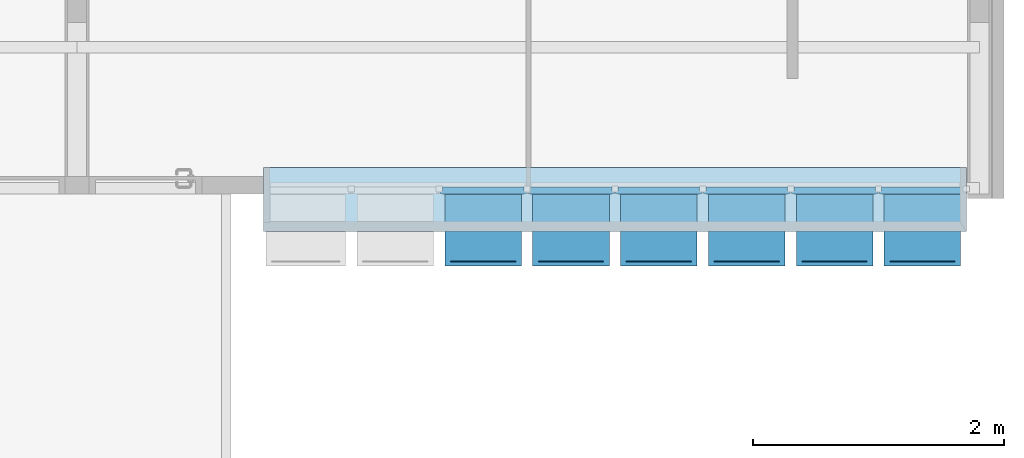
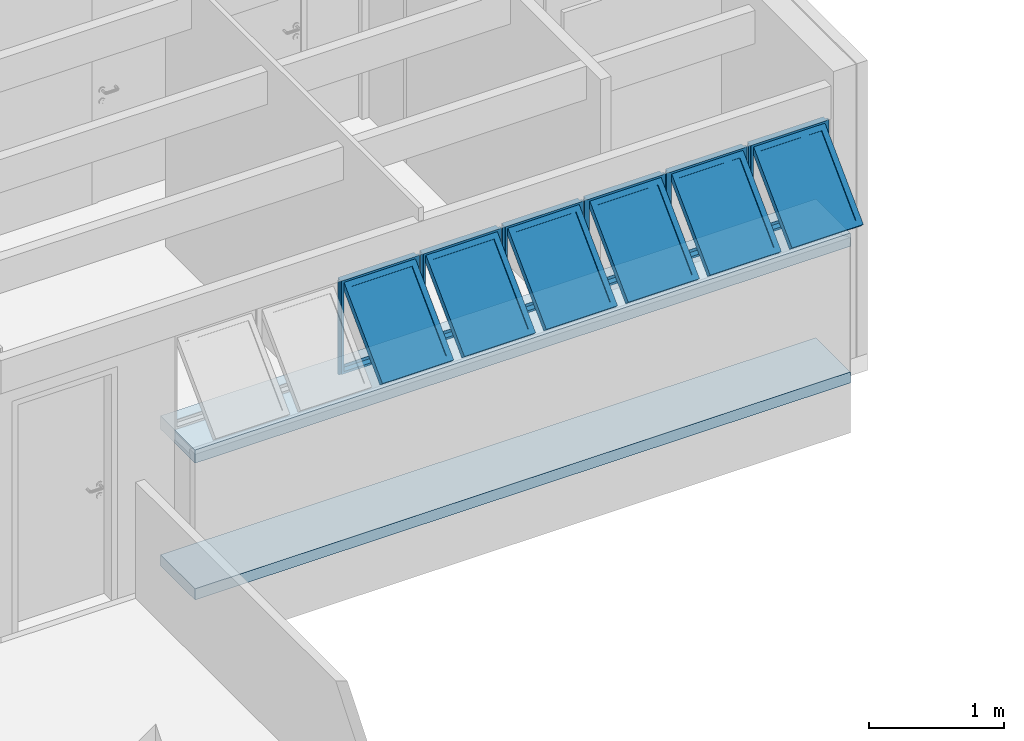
# One storey, part 13 of 40: 6 plates, 2 slabs, 1 element without a shape of its own.
"""IFC4 building model written with IfcOpenShell, lengths in millimetres."""

from ifc_helpers import new_model, entity, si_unit, converted_unit, derived_unit, direction, frame, origin_with_axes, place, context, subcontext, project, spatial, line, indexed_curve, outline, extrude, polygons, source, transform, mapped, material, layer, layer_set, layer_usage, constituent, constituent_set, type_object, element, aggregate, save


model = new_model("IFC4")

# Units and contexts
model_context = context("Model", 3, precision=0.01, world=origin_with_axes(), true_north=direction((0.0, 1.0)))
body_context = subcontext(model_context, "Body", "Model", "MODEL_VIEW")
ifc_project = project(units=[si_unit("LENGTHUNIT", "METRE", prefix="MILLI"), si_unit("AREAUNIT", "SQUARE_METRE"), si_unit("VOLUMEUNIT", "CUBIC_METRE"), converted_unit("PLANEANGLEUNIT", "DEGREE", entity("IfcPlaneAngleMeasure", 0.0174532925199), si_unit("PLANEANGLEUNIT", "RADIAN"), dimensions=[0, 0, 0, 0, 0, 0, 0]), converted_unit("TIMEUNIT", "Year", entity("IfcTimeMeasure", 31556926.0), si_unit("TIMEUNIT", "SECOND"), dimensions=[0, 0, 1, 0, 0, 0, 0]), si_unit("MASSUNIT", "GRAM", prefix="KILO"), si_unit("THERMODYNAMICTEMPERATUREUNIT", "DEGREE_CELSIUS"), si_unit("LUMINOUSINTENSITYUNIT", "LUMEN"), si_unit("ENERGYUNIT", "JOULE", prefix="MEGA"), derived_unit("THERMALCONDUCTANCEUNIT", [(si_unit("POWERUNIT", "WATT"), 1), (si_unit("LENGTHUNIT", "METRE"), -1), (si_unit("THERMODYNAMICTEMPERATUREUNIT", "KELVIN"), -1)]), derived_unit("SPECIFICHEATCAPACITYUNIT", [(si_unit("ENERGYUNIT", "JOULE"), 1), (si_unit("MASSUNIT", "GRAM", prefix="KILO"), -1), (si_unit("THERMODYNAMICTEMPERATUREUNIT", "KELVIN"), -1)]), derived_unit("MASSDENSITYUNIT", [(si_unit("MASSUNIT", "GRAM", prefix="KILO"), 1), (si_unit("VOLUMEUNIT", "CUBIC_METRE"), -1)])], contexts=[model_context])

# Site, building, storey
site_placement = place(None, origin_with_axes())
site = spatial("IfcSite", under=ifc_project, at=site_placement, Name="Local", CompositionType="ELEMENT")
building_placement = place(site_placement, origin_with_axes())
building = spatial("IfcBuilding", under=site, at=building_placement, Name="Construção", CompositionType="ELEMENT")
storey_placement = place(building_placement, origin_with_axes())
storey = spatial("IfcBuildingStorey", under=building, at=storey_placement, Name="Primeiro Pavimento", CompositionType="ELEMENT", Elevation=0.0)

# Slabs
ifc_material_1 = material(Name="Concreto Armado Moldado in Loco - Estrutural")
ifc_layer_1 = layer(ifc_material_1, 120.0, ventilated="UNKNOWN", Name="Concreto Armado Moldado in Loco - Estrutural")
ifc_layer_set_1 = layer_set([ifc_layer_1], Name="Concreto Armado Moldado in Loco - Estrutural 120")
ifc_layer_usage_1 = layer_usage(ifc_layer_set_1, "AXIS3", "NEGATIVE", 120.0)
slab_type_1 = type_object("IfcSlabType", Name="Concreto Armado Moldado in Loco - Estrutural 120", PredefinedType="FLOOR")
slab_1_placement = place(storey_placement, frame((14470.0, 17595.0000013, 1355.0), z_axis=(0.0, 0.0, 1.0), x_axis=(1.0, 0.0, 0.0)))
element("IfcSlab", 1, at=slab_1_placement, inside=storey, type_object=slab_type_1, material=ifc_layer_usage_1, Name="APTO4-LAJE-003", PredefinedType="FLOOR", context=body_context, shape_type="SweptSolid", body=[
    extrude(outline(indexed_curve([(0.0, 0.0), (0.0, 510.0), (-5600.0, 510.0), (-5600.0, 0.0)], segments=[line(1, 2, 3, 4, 1)])), frame((0.0, 0.0, -120.0), z_axis=(0.0, 0.0, 1.0), x_axis=(1.0, 0.0, 0.0)), (0.0, 0.0, 1.0), 120.0),
])
ifc_layer_2 = layer(ifc_material_1, 100.0, ventilated="UNKNOWN", Name="Concreto Armado Moldado in Loco - Estrutural")
ifc_layer_set_2 = layer_set([ifc_layer_2], Name="Concreto Armado Moldado in Loco - Estrutural 100")
ifc_layer_usage_2 = layer_usage(ifc_layer_set_2, "AXIS3", "NEGATIVE", 100.0)
slab_type_2 = type_object("IfcSlabType", Name="Concreto Armado Moldado in Loco - Estrutural 100", PredefinedType="FLOOR")
slab_2_placement = place(storey_placement, frame((14470.0, 17595.0000013, 100.0), z_axis=(0.0, 0.0, 1.0), x_axis=(1.0, 0.0, 0.0)))
element("IfcSlab", 2, at=slab_2_placement, inside=storey, type_object=slab_type_2, material=ifc_layer_usage_2, Name="APTO4-LAJE-004", PredefinedType="FLOOR", context=body_context, shape_type="SweptSolid", body=[
    extrude(outline(indexed_curve([(0.0, 0.0), (0.0, 510.0), (-5600.0, 510.0), (-5600.0, 0.0)], segments=[line(1, 2, 3, 4, 1)])), frame((0.0, 0.0, -100.0), z_axis=(0.0, 0.0, 1.0), x_axis=(1.0, 0.0, 0.0)), (0.0, 0.0, 1.0), 100.0),
])

# Window, plates
window_type = type_object("IfcWindowType", Name="Tipo de Parede Cortina", PartitioningType="NOTDEFINED", PredefinedType="NOTDEFINED")
window_placement = place(storey_placement, frame((12020.0, 17910.0, 1355.00007107), z_axis=(0.0, 0.0, 1.0), x_axis=(1.0, 0.0, 0.0)))
window = element("IfcWindow", 3, at=window_placement, inside=storey, type_object=window_type, Name="APTO4-JANELA-000", PredefinedType="NOTDEFINED")
ifc_material_2 = material(Name="Alumínio")
ifc_constituent_1 = constituent(ifc_material_2, Name="Alumínio")
ifc_material_3 = material(Name="Vidro")
ifc_constituent_2 = constituent(ifc_material_3, Name="Vidro")
ifc_constituent_set_1 = constituent_set(constituents=[ifc_constituent_1, ifc_constituent_2])
plate_type = type_object("IfcPlateType", Name="Painel Principal 690 x 845 x 20", PredefinedType="CURTAIN_PANEL")
shared_shape_1 = source(origin_with_axes(), body_context, "Body", "Tessellation", [
    polygons([(-25.0000036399, 0.0, -40.0), (-25.0000036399, 0.0, -35.0), (-674.999997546, 0.0, -35.0), (-674.999997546, 0.0, -40.0), (-70.0000036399, 45.0, -40.0), (-70.0000036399, 45.0, -35.0), (-629.999997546, 45.0, -35.0), (-629.999997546, 45.0, -40.0)], [[[1, 2, 3, 4]], [[5, 6, 2, 1]], [[2, 6, 7, 3]], [[4, 3, 7, 8]], [[1, 4, 8, 5]], [[8, 7, 6, 5]]], closed=True),
    polygons([(-674.999997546, 0.0, -40.0), (-674.999997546, 0.0, -35.0), (-674.999997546, 844.999891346, -35.0), (-674.999997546, 844.999891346, -40.0), (-629.999997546, 45.0, -40.0), (-629.999997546, 45.0, -35.0), (-629.999997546, 799.999891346, -35.0), (-629.999997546, 799.999891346, -40.0)], [[[1, 2, 3, 4]], [[5, 6, 2, 1]], [[2, 6, 7, 3]], [[4, 3, 7, 8]], [[1, 4, 8, 5]], [[8, 7, 6, 5]]], closed=True),
    polygons([(-25.0000036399, 844.999891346, -40.0), (-25.0000036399, 844.999891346, -35.0), (-70.0000036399, 799.999891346, -35.0), (-70.0000036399, 799.999891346, -40.0), (-674.999997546, 844.999891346, -40.0), (-674.999997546, 844.999891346, -35.0), (-629.999997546, 799.999891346, -35.0), (-629.999997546, 799.999891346, -40.0)], [[[1, 2, 3, 4]], [[5, 6, 2, 1]], [[2, 6, 7, 3]], [[4, 3, 7, 8]], [[1, 4, 8, 5]], [[8, 7, 6, 5]]], closed=True),
    polygons([(-25.0000036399, 0.0, -40.0), (-25.0000036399, 0.0, -35.0), (-70.0000036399, 45.0, -35.0), (-70.0000036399, 45.0, -40.0), (-25.0000036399, 844.999891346, -40.0), (-25.0000036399, 844.999891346, -35.0), (-70.0000036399, 799.999891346, -35.0), (-70.0000036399, 799.999891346, -40.0)], [[[1, 2, 3, 4]], [[5, 6, 2, 1]], [[2, 6, 7, 3]], [[4, 3, 7, 8]], [[1, 4, 8, 5]], [[8, 7, 6, 5]]], closed=True),
    polygons([(-25.0000036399, 0.0, -35.0), (-25.0000036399, 0.0, 15.0), (-674.999997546, 0.0, 15.0), (-674.999997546, 0.0, -35.0), (-45.0000036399, 20.0, -35.0), (-45.0000036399, 20.0, 15.0), (-654.999997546, 20.0, 15.0), (-654.999997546, 20.0, -35.0)], [[[1, 2, 3, 4]], [[5, 6, 2, 1]], [[2, 6, 7, 3]], [[4, 3, 7, 8]], [[1, 4, 8, 5]], [[8, 7, 6, 5]]], closed=True),
    polygons([(-674.999997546, 0.0, -35.0), (-674.999997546, 0.0, 15.0), (-674.999997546, 844.999891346, 15.0), (-674.999997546, 844.999891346, -35.0), (-654.999997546, 20.0, -35.0), (-654.999997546, 20.0, 15.0), (-654.999997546, 824.999891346, 15.0), (-654.999997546, 824.999891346, -35.0)], [[[1, 2, 3, 4]], [[5, 6, 2, 1]], [[2, 6, 7, 3]], [[4, 3, 7, 8]], [[1, 4, 8, 5]], [[8, 7, 6, 5]]], closed=True),
    polygons([(-25.0000036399, 844.999891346, -35.0), (-25.0000036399, 844.999891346, 15.0), (-45.0000036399, 824.999891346, 15.0), (-45.0000036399, 824.999891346, -35.0), (-674.999997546, 844.999891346, -35.0), (-674.999997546, 844.999891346, 15.0), (-654.999997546, 824.999891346, 15.0), (-654.999997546, 824.999891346, -35.0)], [[[1, 2, 3, 4]], [[5, 6, 2, 1]], [[2, 6, 7, 3]], [[4, 3, 7, 8]], [[1, 4, 8, 5]], [[8, 7, 6, 5]]], closed=True),
    polygons([(-25.0000036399, 0.0, -35.0), (-25.0000036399, 0.0, 15.0), (-45.0000036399, 20.0, 15.0), (-45.0000036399, 20.0, -35.0), (-25.0000036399, 844.999891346, -35.0), (-25.0000036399, 844.999891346, 15.0), (-45.0000036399, 824.999891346, 15.0), (-45.0000036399, 824.999891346, -35.0)], [[[1, 2, 3, 4]], [[5, 6, 2, 1]], [[2, 6, 7, 3]], [[4, 3, 7, 8]], [[1, 4, 8, 5]], [[8, 7, 6, 5]]], closed=True),
    polygons([(-694.999995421, 0.0, -10.0), (-694.999995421, 0.0, 10.0), (-694.999995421, 844.999891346, 10.0), (-694.999995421, 844.999891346, -10.0), (-674.999997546, 0.0, -10.0), (-674.999997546, 0.0, 10.0), (-674.999997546, 844.999891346, 10.0), (-674.999997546, 844.999891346, -10.0)], [[[1, 2, 3, 4]], [[5, 6, 2, 1]], [[2, 6, 7, 3]], [[4, 3, 7, 8]], [[1, 4, 8, 5]], [[8, 7, 6, 5]]], closed=True),
    polygons([(-5.00000576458, 844.999891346, -10.0), (-5.00000576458, 844.999891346, 10.0), (-5.00000576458, 0.0, 10.0), (-5.00000576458, 0.0, -10.0), (-25.0000036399, 844.999891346, -10.0), (-25.0000036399, 844.999891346, 10.0), (-25.0000036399, 0.0, 10.0), (-25.0000036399, 0.0, -10.0)], [[[1, 2, 3, 4]], [[5, 6, 2, 1]], [[2, 6, 7, 3]], [[4, 3, 7, 8]], [[1, 4, 8, 5]], [[8, 7, 6, 5]]], closed=True),
    polygons([(-90.0000036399, 252.243475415, 517.045737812), (-90.0000036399, 291.13434838, 555.936610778), (-90.0000036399, 796.715620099, 50.3553390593), (-90.0000036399, 757.824747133, 11.4644660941), (-45.0000036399, 220.423670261, 548.865542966), (-45.0000036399, 259.314543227, 587.756415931), (-45.0000036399, 828.535425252, 18.5355339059), (-45.0000036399, 789.644552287, -20.3553390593)], [[[1, 2, 3, 4]], [[5, 6, 2, 1]], [[2, 6, 7, 3]], [[4, 3, 7, 8]], [[1, 4, 8, 5]], [[8, 7, 6, 5]]], closed=True),
    polygons([(-654.999997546, 220.423670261, 548.865542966), (-654.999997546, 259.314543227, 587.756415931), (-654.999997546, 828.535425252, 18.5355339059), (-654.999997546, 789.644552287, -20.3553390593), (-609.999997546, 252.243475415, 517.045737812), (-609.999997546, 291.13434838, 555.936610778), (-609.999997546, 796.715620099, 50.3553390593), (-609.999997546, 757.824747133, 11.4644660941)], [[[1, 2, 3, 4]], [[5, 6, 2, 1]], [[2, 6, 7, 3]], [[4, 3, 7, 8]], [[1, 4, 8, 5]], [[8, 7, 6, 5]]], closed=True),
    polygons([(-654.999997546, 220.423670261, 548.865542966), (-654.999997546, 259.314543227, 587.756415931), (-609.999997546, 291.13434838, 555.936610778), (-609.999997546, 252.243475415, 517.045737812), (-45.0000036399, 220.423670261, 548.865542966), (-45.0000036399, 259.314543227, 587.756415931), (-90.0000036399, 291.13434838, 555.936610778), (-90.0000036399, 252.243475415, 517.045737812)], [[[1, 2, 3, 4]], [[5, 6, 2, 1]], [[2, 6, 7, 3]], [[4, 3, 7, 8]], [[1, 4, 8, 5]], [[8, 7, 6, 5]]], closed=True),
    polygons([(-45.0000036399, 789.644552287, -20.3553390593), (-45.0000036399, 828.535425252, 18.5355339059), (-90.0000036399, 796.715620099, 50.3553390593), (-90.0000036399, 757.824747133, 11.4644660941), (-654.999997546, 789.644552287, -20.3553390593), (-654.999997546, 828.535425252, 18.5355339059), (-609.999997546, 796.715620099, 50.3553390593), (-609.999997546, 757.824747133, 11.4644660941)], [[[1, 2, 3, 4]], [[5, 6, 2, 1]], [[2, 6, 7, 3]], [[4, 3, 7, 8]], [[1, 4, 8, 5]], [[8, 7, 6, 5]]], closed=True),
    polygons([(-90.0000036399, 272.749572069, 537.551834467), (-90.0000036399, 284.063280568, 548.865542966), (-609.999997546, 284.063280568, 548.865542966), (-609.999997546, 272.749572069, 537.551834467), (-90.0000036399, 778.330843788, 31.9705627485), (-90.0000036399, 789.644552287, 43.2842712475), (-609.999997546, 789.644552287, 43.2842712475), (-609.999997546, 778.330843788, 31.9705627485)], [[[1, 2, 3, 4]], [[5, 6, 2, 1]], [[2, 6, 7, 3]], [[4, 3, 7, 8]], [[1, 4, 8, 5]], [[8, 7, 6, 5]]], closed=True),
])
plate_1_placement = place(window_placement, frame((0.0, 0.0, 422.499964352), z_axis=(0.0, 0.0, 1.0), x_axis=(1.0, 0.0, 0.0)))
plate_1 = element("IfcPlate", 4, at=plate_1_placement, type_object=plate_type, material=ifc_constituent_set_1, Name="APTO4-Painel-Prin-013", PredefinedType="CURTAIN_PANEL", context=body_context, shape_type="MappedRepresentation", body=[
    mapped(shared_shape_1, transform((350.0, 0.0, -422.499964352), x_axis=(1.0, 0.0, 0.0), y_axis=(0.0, 0.0, 1.0), z_axis=(0.0, -1.0, 0.0))),
])
ifc_constituent_3 = constituent(ifc_material_2, Name="Alumínio")
ifc_constituent_4 = constituent(ifc_material_3, Name="Vidro")
ifc_constituent_set_2 = constituent_set(constituents=[ifc_constituent_3, ifc_constituent_4])
shared_shape_2 = source(origin_with_axes(), body_context, "Body", "Tessellation", [
    polygons([(-25.0000036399, 0.0, -40.0), (-25.0000036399, 0.0, -35.0), (-674.999997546, 0.0, -35.0), (-674.999997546, 0.0, -40.0), (-70.0000036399, 45.0, -40.0), (-70.0000036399, 45.0, -35.0), (-629.999997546, 45.0, -35.0), (-629.999997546, 45.0, -40.0)], [[[1, 2, 3, 4]], [[5, 6, 2, 1]], [[2, 6, 7, 3]], [[4, 3, 7, 8]], [[1, 4, 8, 5]], [[8, 7, 6, 5]]], closed=True),
    polygons([(-674.999997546, 0.0, -40.0), (-674.999997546, 0.0, -35.0), (-674.999997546, 844.999891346, -35.0), (-674.999997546, 844.999891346, -40.0), (-629.999997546, 45.0, -40.0), (-629.999997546, 45.0, -35.0), (-629.999997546, 799.999891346, -35.0), (-629.999997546, 799.999891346, -40.0)], [[[1, 2, 3, 4]], [[5, 6, 2, 1]], [[2, 6, 7, 3]], [[4, 3, 7, 8]], [[1, 4, 8, 5]], [[8, 7, 6, 5]]], closed=True),
    polygons([(-25.0000036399, 844.999891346, -40.0), (-25.0000036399, 844.999891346, -35.0), (-70.0000036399, 799.999891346, -35.0), (-70.0000036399, 799.999891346, -40.0), (-674.999997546, 844.999891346, -40.0), (-674.999997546, 844.999891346, -35.0), (-629.999997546, 799.999891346, -35.0), (-629.999997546, 799.999891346, -40.0)], [[[1, 2, 3, 4]], [[5, 6, 2, 1]], [[2, 6, 7, 3]], [[4, 3, 7, 8]], [[1, 4, 8, 5]], [[8, 7, 6, 5]]], closed=True),
    polygons([(-25.0000036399, 0.0, -40.0), (-25.0000036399, 0.0, -35.0), (-70.0000036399, 45.0, -35.0), (-70.0000036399, 45.0, -40.0), (-25.0000036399, 844.999891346, -40.0), (-25.0000036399, 844.999891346, -35.0), (-70.0000036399, 799.999891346, -35.0), (-70.0000036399, 799.999891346, -40.0)], [[[1, 2, 3, 4]], [[5, 6, 2, 1]], [[2, 6, 7, 3]], [[4, 3, 7, 8]], [[1, 4, 8, 5]], [[8, 7, 6, 5]]], closed=True),
    polygons([(-25.0000036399, 0.0, -35.0), (-25.0000036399, 0.0, 15.0), (-674.999997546, 0.0, 15.0), (-674.999997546, 0.0, -35.0), (-45.0000036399, 20.0, -35.0), (-45.0000036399, 20.0, 15.0), (-654.999997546, 20.0, 15.0), (-654.999997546, 20.0, -35.0)], [[[1, 2, 3, 4]], [[5, 6, 2, 1]], [[2, 6, 7, 3]], [[4, 3, 7, 8]], [[1, 4, 8, 5]], [[8, 7, 6, 5]]], closed=True),
    polygons([(-674.999997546, 0.0, -35.0), (-674.999997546, 0.0, 15.0), (-674.999997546, 844.999891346, 15.0), (-674.999997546, 844.999891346, -35.0), (-654.999997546, 20.0, -35.0), (-654.999997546, 20.0, 15.0), (-654.999997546, 824.999891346, 15.0), (-654.999997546, 824.999891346, -35.0)], [[[1, 2, 3, 4]], [[5, 6, 2, 1]], [[2, 6, 7, 3]], [[4, 3, 7, 8]], [[1, 4, 8, 5]], [[8, 7, 6, 5]]], closed=True),
    polygons([(-25.0000036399, 844.999891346, -35.0), (-25.0000036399, 844.999891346, 15.0), (-45.0000036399, 824.999891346, 15.0), (-45.0000036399, 824.999891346, -35.0), (-674.999997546, 844.999891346, -35.0), (-674.999997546, 844.999891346, 15.0), (-654.999997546, 824.999891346, 15.0), (-654.999997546, 824.999891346, -35.0)], [[[1, 2, 3, 4]], [[5, 6, 2, 1]], [[2, 6, 7, 3]], [[4, 3, 7, 8]], [[1, 4, 8, 5]], [[8, 7, 6, 5]]], closed=True),
    polygons([(-25.0000036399, 0.0, -35.0), (-25.0000036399, 0.0, 15.0), (-45.0000036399, 20.0, 15.0), (-45.0000036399, 20.0, -35.0), (-25.0000036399, 844.999891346, -35.0), (-25.0000036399, 844.999891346, 15.0), (-45.0000036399, 824.999891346, 15.0), (-45.0000036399, 824.999891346, -35.0)], [[[1, 2, 3, 4]], [[5, 6, 2, 1]], [[2, 6, 7, 3]], [[4, 3, 7, 8]], [[1, 4, 8, 5]], [[8, 7, 6, 5]]], closed=True),
    polygons([(-694.999995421, 0.0, -10.0), (-694.999995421, 0.0, 10.0), (-694.999995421, 844.999891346, 10.0), (-694.999995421, 844.999891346, -10.0), (-674.999997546, 0.0, -10.0), (-674.999997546, 0.0, 10.0), (-674.999997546, 844.999891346, 10.0), (-674.999997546, 844.999891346, -10.0)], [[[1, 2, 3, 4]], [[5, 6, 2, 1]], [[2, 6, 7, 3]], [[4, 3, 7, 8]], [[1, 4, 8, 5]], [[8, 7, 6, 5]]], closed=True),
    polygons([(-5.00000576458, 844.999891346, -10.0), (-5.00000576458, 844.999891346, 10.0), (-5.00000576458, 0.0, 10.0), (-5.00000576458, 0.0, -10.0), (-25.0000036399, 844.999891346, -10.0), (-25.0000036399, 844.999891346, 10.0), (-25.0000036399, 0.0, 10.0), (-25.0000036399, 0.0, -10.0)], [[[1, 2, 3, 4]], [[5, 6, 2, 1]], [[2, 6, 7, 3]], [[4, 3, 7, 8]], [[1, 4, 8, 5]], [[8, 7, 6, 5]]], closed=True),
    polygons([(-90.0000036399, 252.243475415, 517.045737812), (-90.0000036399, 291.13434838, 555.936610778), (-90.0000036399, 796.715620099, 50.3553390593), (-90.0000036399, 757.824747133, 11.4644660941), (-45.0000036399, 220.423670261, 548.865542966), (-45.0000036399, 259.314543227, 587.756415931), (-45.0000036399, 828.535425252, 18.5355339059), (-45.0000036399, 789.644552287, -20.3553390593)], [[[1, 2, 3, 4]], [[5, 6, 2, 1]], [[2, 6, 7, 3]], [[4, 3, 7, 8]], [[1, 4, 8, 5]], [[8, 7, 6, 5]]], closed=True),
    polygons([(-654.999997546, 220.423670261, 548.865542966), (-654.999997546, 259.314543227, 587.756415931), (-654.999997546, 828.535425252, 18.5355339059), (-654.999997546, 789.644552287, -20.3553390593), (-609.999997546, 252.243475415, 517.045737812), (-609.999997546, 291.13434838, 555.936610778), (-609.999997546, 796.715620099, 50.3553390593), (-609.999997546, 757.824747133, 11.4644660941)], [[[1, 2, 3, 4]], [[5, 6, 2, 1]], [[2, 6, 7, 3]], [[4, 3, 7, 8]], [[1, 4, 8, 5]], [[8, 7, 6, 5]]], closed=True),
    polygons([(-654.999997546, 220.423670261, 548.865542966), (-654.999997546, 259.314543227, 587.756415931), (-609.999997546, 291.13434838, 555.936610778), (-609.999997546, 252.243475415, 517.045737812), (-45.0000036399, 220.423670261, 548.865542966), (-45.0000036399, 259.314543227, 587.756415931), (-90.0000036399, 291.13434838, 555.936610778), (-90.0000036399, 252.243475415, 517.045737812)], [[[1, 2, 3, 4]], [[5, 6, 2, 1]], [[2, 6, 7, 3]], [[4, 3, 7, 8]], [[1, 4, 8, 5]], [[8, 7, 6, 5]]], closed=True),
    polygons([(-45.0000036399, 789.644552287, -20.3553390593), (-45.0000036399, 828.535425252, 18.5355339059), (-90.0000036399, 796.715620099, 50.3553390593), (-90.0000036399, 757.824747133, 11.4644660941), (-654.999997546, 789.644552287, -20.3553390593), (-654.999997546, 828.535425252, 18.5355339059), (-609.999997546, 796.715620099, 50.3553390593), (-609.999997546, 757.824747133, 11.4644660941)], [[[1, 2, 3, 4]], [[5, 6, 2, 1]], [[2, 6, 7, 3]], [[4, 3, 7, 8]], [[1, 4, 8, 5]], [[8, 7, 6, 5]]], closed=True),
    polygons([(-90.0000036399, 272.749572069, 537.551834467), (-90.0000036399, 284.063280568, 548.865542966), (-609.999997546, 284.063280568, 548.865542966), (-609.999997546, 272.749572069, 537.551834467), (-90.0000036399, 778.330843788, 31.9705627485), (-90.0000036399, 789.644552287, 43.2842712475), (-609.999997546, 789.644552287, 43.2842712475), (-609.999997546, 778.330843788, 31.9705627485)], [[[1, 2, 3, 4]], [[5, 6, 2, 1]], [[2, 6, 7, 3]], [[4, 3, 7, 8]], [[1, 4, 8, 5]], [[8, 7, 6, 5]]], closed=True),
])
plate_2_placement = place(window_placement, frame((2100.0, 0.0, 422.499998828), z_axis=(0.0, 0.0, 1.0), x_axis=(1.0, 0.0, 0.0)))
plate_2 = element("IfcPlate", 5, at=plate_2_placement, type_object=plate_type, material=ifc_constituent_set_2, Name="APTO4-Painel-Prin-013", PredefinedType="CURTAIN_PANEL", context=body_context, shape_type="MappedRepresentation", body=[
    mapped(shared_shape_2, transform((350.0, 0.0, -422.499998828), x_axis=(1.0, 0.0, 0.0), y_axis=(0.0, 0.0, 1.0), z_axis=(0.0, -1.0, 0.0))),
])
ifc_constituent_5 = constituent(ifc_material_2, Name="Alumínio")
ifc_constituent_6 = constituent(ifc_material_3, Name="Vidro")
ifc_constituent_set_3 = constituent_set(constituents=[ifc_constituent_5, ifc_constituent_6])
plate_3_placement = place(window_placement, frame((1400.0, 0.0, 422.499964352), z_axis=(0.0, 0.0, 1.0), x_axis=(1.0, 0.0, 0.0)))
plate_3 = element("IfcPlate", 6, at=plate_3_placement, type_object=plate_type, material=ifc_constituent_set_3, Name="APTO4-Painel-Prin-013", PredefinedType="CURTAIN_PANEL", context=body_context, shape_type="MappedRepresentation", body=[
    mapped(shared_shape_2, transform((350.0, 0.0, -422.499964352), x_axis=(1.0, 0.0, 0.0), y_axis=(0.0, 0.0, 1.0), z_axis=(0.0, -1.0, 0.0))),
])
ifc_constituent_7 = constituent(ifc_material_2, Name="Alumínio")
ifc_constituent_8 = constituent(ifc_material_3, Name="Vidro")
ifc_constituent_set_4 = constituent_set(constituents=[ifc_constituent_7, ifc_constituent_8])
plate_4_placement = place(window_placement, frame((-1400.0, 0.0, 422.499964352), z_axis=(0.0, 0.0, 1.0), x_axis=(1.0, 0.0, 0.0)))
plate_4 = element("IfcPlate", 7, at=plate_4_placement, type_object=plate_type, material=ifc_constituent_set_4, Name="APTO4-Painel-Prin-025", PredefinedType="CURTAIN_PANEL", context=body_context, shape_type="MappedRepresentation", body=[
    mapped(shared_shape_2, transform((350.0, 0.0, -422.499964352), x_axis=(1.0, 0.0, 0.0), y_axis=(0.0, 0.0, 1.0), z_axis=(0.0, -1.0, 0.0))),
])
ifc_constituent_9 = constituent(ifc_material_2, Name="Alumínio")
ifc_constituent_10 = constituent(ifc_material_3, Name="Vidro")
ifc_constituent_set_5 = constituent_set(constituents=[ifc_constituent_9, ifc_constituent_10])
shared_shape_3 = source(origin_with_axes(), body_context, "Body", "Tessellation", [
    polygons([(-25.0000036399, 0.0, -40.0), (-25.0000036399, 0.0, -35.0), (-674.999997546, 0.0, -35.0), (-674.999997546, 0.0, -40.0), (-70.0000036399, 45.0, -40.0), (-70.0000036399, 45.0, -35.0), (-629.999997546, 45.0, -35.0), (-629.999997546, 45.0, -40.0)], [[[1, 2, 3, 4]], [[5, 6, 2, 1]], [[2, 6, 7, 3]], [[4, 3, 7, 8]], [[1, 4, 8, 5]], [[8, 7, 6, 5]]], closed=True),
    polygons([(-674.999997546, 0.0, -40.0), (-674.999997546, 0.0, -35.0), (-674.999997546, 844.999891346, -35.0), (-674.999997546, 844.999891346, -40.0), (-629.999997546, 45.0, -40.0), (-629.999997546, 45.0, -35.0), (-629.999997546, 799.999891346, -35.0), (-629.999997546, 799.999891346, -40.0)], [[[1, 2, 3, 4]], [[5, 6, 2, 1]], [[2, 6, 7, 3]], [[4, 3, 7, 8]], [[1, 4, 8, 5]], [[8, 7, 6, 5]]], closed=True),
    polygons([(-25.0000036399, 844.999891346, -40.0), (-25.0000036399, 844.999891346, -35.0), (-70.0000036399, 799.999891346, -35.0), (-70.0000036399, 799.999891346, -40.0), (-674.999997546, 844.999891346, -40.0), (-674.999997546, 844.999891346, -35.0), (-629.999997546, 799.999891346, -35.0), (-629.999997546, 799.999891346, -40.0)], [[[1, 2, 3, 4]], [[5, 6, 2, 1]], [[2, 6, 7, 3]], [[4, 3, 7, 8]], [[1, 4, 8, 5]], [[8, 7, 6, 5]]], closed=True),
    polygons([(-25.0000036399, 0.0, -40.0), (-25.0000036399, 0.0, -35.0), (-70.0000036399, 45.0, -35.0), (-70.0000036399, 45.0, -40.0), (-25.0000036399, 844.999891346, -40.0), (-25.0000036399, 844.999891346, -35.0), (-70.0000036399, 799.999891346, -35.0), (-70.0000036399, 799.999891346, -40.0)], [[[1, 2, 3, 4]], [[5, 6, 2, 1]], [[2, 6, 7, 3]], [[4, 3, 7, 8]], [[1, 4, 8, 5]], [[8, 7, 6, 5]]], closed=True),
    polygons([(-25.0000036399, 0.0, -35.0), (-25.0000036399, 0.0, 15.0), (-674.999997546, 0.0, 15.0), (-674.999997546, 0.0, -35.0), (-45.0000036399, 20.0, -35.0), (-45.0000036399, 20.0, 15.0), (-654.999997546, 20.0, 15.0), (-654.999997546, 20.0, -35.0)], [[[1, 2, 3, 4]], [[5, 6, 2, 1]], [[2, 6, 7, 3]], [[4, 3, 7, 8]], [[1, 4, 8, 5]], [[8, 7, 6, 5]]], closed=True),
    polygons([(-674.999997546, 0.0, -35.0), (-674.999997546, 0.0, 15.0), (-674.999997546, 844.999891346, 15.0), (-674.999997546, 844.999891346, -35.0), (-654.999997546, 20.0, -35.0), (-654.999997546, 20.0, 15.0), (-654.999997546, 824.999891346, 15.0), (-654.999997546, 824.999891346, -35.0)], [[[1, 2, 3, 4]], [[5, 6, 2, 1]], [[2, 6, 7, 3]], [[4, 3, 7, 8]], [[1, 4, 8, 5]], [[8, 7, 6, 5]]], closed=True),
    polygons([(-25.0000036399, 844.999891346, -35.0), (-25.0000036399, 844.999891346, 15.0), (-45.0000036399, 824.999891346, 15.0), (-45.0000036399, 824.999891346, -35.0), (-674.999997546, 844.999891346, -35.0), (-674.999997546, 844.999891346, 15.0), (-654.999997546, 824.999891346, 15.0), (-654.999997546, 824.999891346, -35.0)], [[[1, 2, 3, 4]], [[5, 6, 2, 1]], [[2, 6, 7, 3]], [[4, 3, 7, 8]], [[1, 4, 8, 5]], [[8, 7, 6, 5]]], closed=True),
    polygons([(-25.0000036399, 0.0, -35.0), (-25.0000036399, 0.0, 15.0), (-45.0000036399, 20.0, 15.0), (-45.0000036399, 20.0, -35.0), (-25.0000036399, 844.999891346, -35.0), (-25.0000036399, 844.999891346, 15.0), (-45.0000036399, 824.999891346, 15.0), (-45.0000036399, 824.999891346, -35.0)], [[[1, 2, 3, 4]], [[5, 6, 2, 1]], [[2, 6, 7, 3]], [[4, 3, 7, 8]], [[1, 4, 8, 5]], [[8, 7, 6, 5]]], closed=True),
    polygons([(-694.999995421, 0.0, -10.0), (-694.999995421, 0.0, 10.0), (-694.999995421, 844.999891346, 10.0), (-694.999995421, 844.999891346, -10.0), (-674.999997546, 0.0, -10.0), (-674.999997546, 0.0, 10.0), (-674.999997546, 844.999891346, 10.0), (-674.999997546, 844.999891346, -10.0)], [[[1, 2, 3, 4]], [[5, 6, 2, 1]], [[2, 6, 7, 3]], [[4, 3, 7, 8]], [[1, 4, 8, 5]], [[8, 7, 6, 5]]], closed=True),
    polygons([(-5.00000576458, 844.999891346, -10.0), (-5.00000576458, 844.999891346, 10.0), (-5.00000576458, 0.0, 10.0), (-5.00000576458, 0.0, -10.0), (-25.0000036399, 844.999891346, -10.0), (-25.0000036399, 844.999891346, 10.0), (-25.0000036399, 0.0, 10.0), (-25.0000036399, 0.0, -10.0)], [[[1, 2, 3, 4]], [[5, 6, 2, 1]], [[2, 6, 7, 3]], [[4, 3, 7, 8]], [[1, 4, 8, 5]], [[8, 7, 6, 5]]], closed=True),
    polygons([(-90.0000036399, 252.243475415, 517.045737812), (-90.0000036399, 291.13434838, 555.936610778), (-90.0000036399, 796.715620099, 50.3553390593), (-90.0000036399, 757.824747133, 11.4644660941), (-45.0000036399, 220.423670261, 548.865542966), (-45.0000036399, 259.314543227, 587.756415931), (-45.0000036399, 828.535425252, 18.5355339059), (-45.0000036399, 789.644552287, -20.3553390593)], [[[1, 2, 3, 4]], [[5, 6, 2, 1]], [[2, 6, 7, 3]], [[4, 3, 7, 8]], [[1, 4, 8, 5]], [[8, 7, 6, 5]]], closed=True),
    polygons([(-654.999997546, 220.423670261, 548.865542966), (-654.999997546, 259.314543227, 587.756415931), (-654.999997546, 828.535425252, 18.5355339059), (-654.999997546, 789.644552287, -20.3553390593), (-609.999997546, 252.243475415, 517.045737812), (-609.999997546, 291.13434838, 555.936610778), (-609.999997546, 796.715620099, 50.3553390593), (-609.999997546, 757.824747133, 11.4644660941)], [[[1, 2, 3, 4]], [[5, 6, 2, 1]], [[2, 6, 7, 3]], [[4, 3, 7, 8]], [[1, 4, 8, 5]], [[8, 7, 6, 5]]], closed=True),
    polygons([(-654.999997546, 220.423670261, 548.865542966), (-654.999997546, 259.314543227, 587.756415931), (-609.999997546, 291.13434838, 555.936610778), (-609.999997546, 252.243475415, 517.045737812), (-45.0000036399, 220.423670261, 548.865542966), (-45.0000036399, 259.314543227, 587.756415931), (-90.0000036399, 291.13434838, 555.936610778), (-90.0000036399, 252.243475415, 517.045737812)], [[[1, 2, 3, 4]], [[5, 6, 2, 1]], [[2, 6, 7, 3]], [[4, 3, 7, 8]], [[1, 4, 8, 5]], [[8, 7, 6, 5]]], closed=True),
    polygons([(-45.0000036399, 789.644552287, -20.3553390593), (-45.0000036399, 828.535425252, 18.5355339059), (-90.0000036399, 796.715620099, 50.3553390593), (-90.0000036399, 757.824747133, 11.4644660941), (-654.999997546, 789.644552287, -20.3553390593), (-654.999997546, 828.535425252, 18.5355339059), (-609.999997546, 796.715620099, 50.3553390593), (-609.999997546, 757.824747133, 11.4644660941)], [[[1, 2, 3, 4]], [[5, 6, 2, 1]], [[2, 6, 7, 3]], [[4, 3, 7, 8]], [[1, 4, 8, 5]], [[8, 7, 6, 5]]], closed=True),
    polygons([(-90.0000036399, 272.749572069, 537.551834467), (-90.0000036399, 284.063280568, 548.865542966), (-609.999997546, 284.063280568, 548.865542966), (-609.999997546, 272.749572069, 537.551834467), (-90.0000036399, 778.330843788, 31.9705627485), (-90.0000036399, 789.644552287, 43.2842712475), (-609.999997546, 789.644552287, 43.2842712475), (-609.999997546, 778.330843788, 31.9705627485)], [[[1, 2, 3, 4]], [[5, 6, 2, 1]], [[2, 6, 7, 3]], [[4, 3, 7, 8]], [[1, 4, 8, 5]], [[8, 7, 6, 5]]], closed=True),
])
plate_5_placement = place(window_placement, frame((-700.0, 0.0, 422.499964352), z_axis=(0.0, 0.0, 1.0), x_axis=(1.0, 0.0, 0.0)))
plate_5 = element("IfcPlate", 8, at=plate_5_placement, type_object=plate_type, material=ifc_constituent_set_5, Name="APTO4-Painel-Prin-013", PredefinedType="CURTAIN_PANEL", context=body_context, shape_type="MappedRepresentation", body=[
    mapped(shared_shape_3, transform((350.0, 0.0, -422.499964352), x_axis=(1.0, 0.0, 0.0), y_axis=(0.0, 0.0, 1.0), z_axis=(0.0, -1.0, 0.0))),
])
ifc_constituent_11 = constituent(ifc_material_2, Name="Alumínio")
ifc_constituent_12 = constituent(ifc_material_3, Name="Vidro")
ifc_constituent_set_6 = constituent_set(constituents=[ifc_constituent_11, ifc_constituent_12])
plate_6_placement = place(window_placement, frame((700.0, 0.0, 422.499964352), z_axis=(0.0, 0.0, 1.0), x_axis=(1.0, 0.0, 0.0)))
plate_6 = element("IfcPlate", 9, at=plate_6_placement, type_object=plate_type, material=ifc_constituent_set_6, Name="APTO4-Painel-Prin-013", PredefinedType="CURTAIN_PANEL", context=body_context, shape_type="MappedRepresentation", body=[
    mapped(shared_shape_3, transform((350.0, 0.0, -422.499964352), x_axis=(1.0, 0.0, 0.0), y_axis=(0.0, 0.0, 1.0), z_axis=(0.0, -1.0, 0.0))),
])
aggregate(window, [plate_1, plate_2, plate_3, plate_5, plate_4, plate_6])

save(model, "model.ifc")
